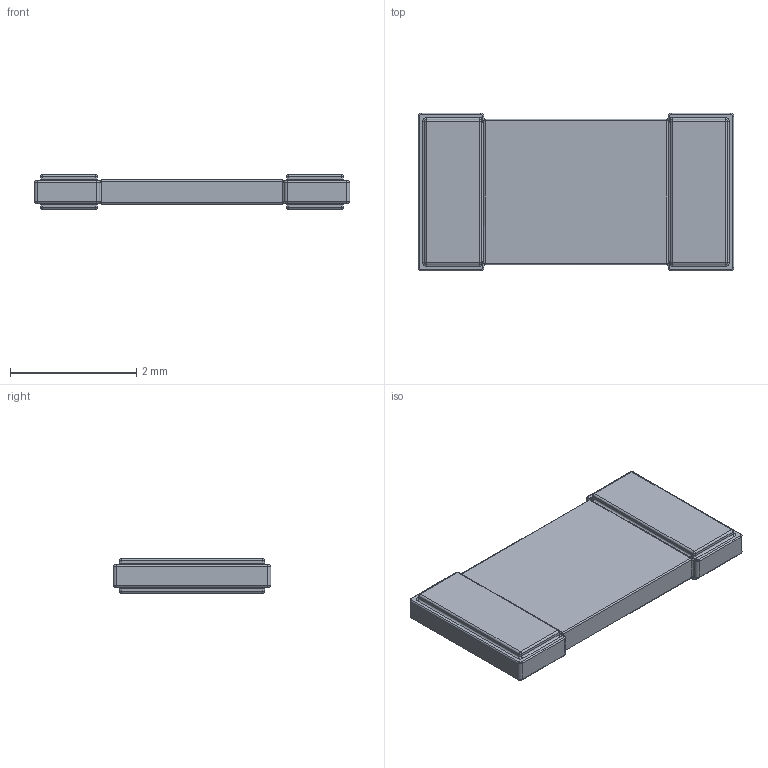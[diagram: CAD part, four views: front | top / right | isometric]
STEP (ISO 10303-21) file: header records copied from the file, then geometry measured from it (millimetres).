
FILE_DESCRIPTION(('STEP AP203'), '1');
FILE_NAME('櫻蠉錪', '', ('UNSPECIFIED'), ('UNSPECIFIED'), 'ASCON STEP Converter 1.6', 'ASCON Math Kernel', '');
FILE_SCHEMA(('CONFIG_CONTROL_DESIGN'));
Length unit declared in the file: millimetre
Bounding box: 5 x 2.5 x 0.55 mm (x, y, z)
Volume: 0.1 mm3; surface area: 35.3 mm2
Topology: 2 solids, 3 shells, 246 faces, 558 edges, 280 vertices
Faces by surface type: cylinder 100, plane 66, torus 40, sphere 24, bspline 16
Entity records: 10113 total; most frequent: CARTESIAN_POINT 2787, DIRECTION 1183, ORIENTED_EDGE 1067, EDGE_CURVE 539, AXIS2_PLACEMENT_3D 477, VERTEX_POINT 280, COLOUR_RGB 247, FILL_AREA_STYLE_COLOUR 247
